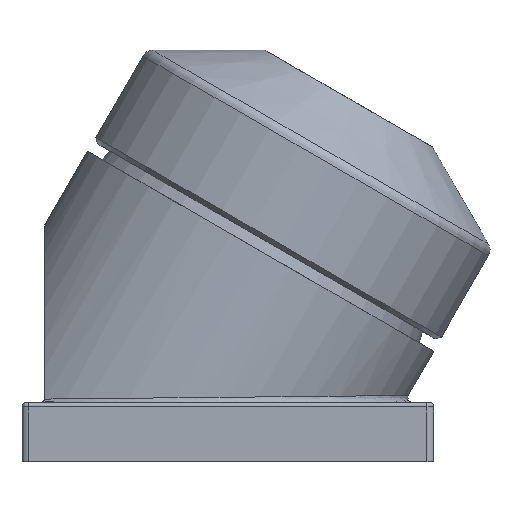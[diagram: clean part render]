
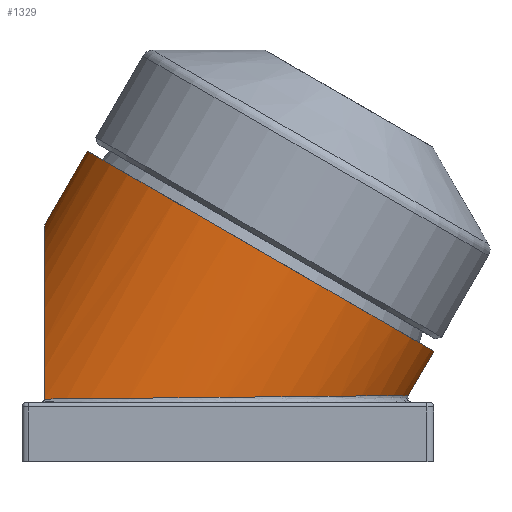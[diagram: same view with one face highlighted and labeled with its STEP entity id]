
A CAD part, left-side view. The second image highlights one B-rep face of the part: STEP entity #1329.
In plain terms, the highlighted cylindrical face has radius 87.5 mm (diameter 175 mm), a full revolution.
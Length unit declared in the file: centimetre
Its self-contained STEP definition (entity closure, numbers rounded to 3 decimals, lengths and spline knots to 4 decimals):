
#61=ELLIPSE('',#1459,10.1619,8.75);
#63=ELLIPSE('',#1464,17.5,8.75);
#74=B_SPLINE_CURVE_WITH_KNOTS('',3,(#2517,#2518,#2519,#2520,#2521,#2522),
 .UNSPECIFIED.,.F.,.F.,(4,2,4),(0.7222,0.7545,0.7786),
 .UNSPECIFIED.);
#75=B_SPLINE_CURVE_WITH_KNOTS('',3,(#2525,#2526,#2527,#2528,#2529,#2530),
 .UNSPECIFIED.,.F.,.F.,(4,2,4),(0.5728,0.5968,0.6291),
 .UNSPECIFIED.);
#76=B_SPLINE_CURVE_WITH_KNOTS('',3,(#2537,#2538,#2539,#2540,#2541,#2542,
#2543,#2544,#2545,#2546,#2547,#2548,#2549,#2550,#2551,#2552,#2553,#2554),
 .UNSPECIFIED.,.F.,.F.,(4,2,2,2,2,2,2,2,4),(0.6363,0.7954,
0.9545,1.1135,1.2726,1.4316,1.5907,
1.7498,1.9088),.UNSPECIFIED.);
#77=B_SPLINE_CURVE_WITH_KNOTS('',3,(#2555,#2556,#2557,#2558,#2559,#2560,
#2561,#2562,#2563,#2564,#2565,#2566,#2567,#2568,#2569,#2570,#2571,#2572,
#2573),.UNSPECIFIED.,.F.,.F.,(4,2,2,2,3,2,2,2,4),(1.9088,2.0679,
2.227,2.3861,2.5451,2.7041,2.8632,
3.0223,3.1814),.UNSPECIFIED.);
#109=CYLINDRICAL_SURFACE('',#1462,8.75);
#162=FACE_BOUND('',#385,.T.);
#163=FACE_BOUND('',#386,.T.);
#261=FACE_OUTER_BOUND('',#384,.T.);
#384=EDGE_LOOP('',(#951));
#385=EDGE_LOOP('',(#952,#953,#954,#955));
#386=EDGE_LOOP('',(#956,#957));
#548=CIRCLE('',#1463,8.75);
#654=VERTEX_POINT('',#2484);
#655=VERTEX_POINT('',#2485);
#658=VERTEX_POINT('',#2516);
#659=VERTEX_POINT('',#2523);
#660=VERTEX_POINT('',#2532);
#661=VERTEX_POINT('',#2535);
#662=VERTEX_POINT('',#2536);
#775=EDGE_CURVE('',#654,#655,#61,.T.);
#780=EDGE_CURVE('',#655,#658,#74,.T.);
#782=EDGE_CURVE('',#659,#654,#75,.T.);
#783=EDGE_CURVE('',#660,#660,#548,.T.);
#784=EDGE_CURVE('',#659,#658,#63,.T.);
#785=EDGE_CURVE('',#661,#662,#76,.T.);
#786=EDGE_CURVE('',#662,#661,#77,.T.);
#951=ORIENTED_EDGE('',*,*,#783,.T.);
#952=ORIENTED_EDGE('',*,*,#775,.F.);
#953=ORIENTED_EDGE('',*,*,#782,.F.);
#954=ORIENTED_EDGE('',*,*,#784,.T.);
#955=ORIENTED_EDGE('',*,*,#780,.F.);
#956=ORIENTED_EDGE('',*,*,#785,.T.);
#957=ORIENTED_EDGE('',*,*,#786,.T.);
#1329=ADVANCED_FACE('',(#261,#162,#163),#109,.T.);
#1459=AXIS2_PLACEMENT_3D('',#2486,#1712,#1713);
#1462=AXIS2_PLACEMENT_3D('',#2531,#1720,#1721);
#1463=AXIS2_PLACEMENT_3D('',#2533,#1722,#1723);
#1464=AXIS2_PLACEMENT_3D('',#2534,#1724,#1725);
#1712=DIRECTION('center_axis',(0.,-0.01,
-1.));
#1713=DIRECTION('ref_axis',(0.,-1.,0.01));
#1720=DIRECTION('center_axis',(0.,0.5,-0.866));
#1721=DIRECTION('ref_axis',(-1.,0.,0.));
#1722=DIRECTION('center_axis',(0.,0.5,-0.866));
#1723=DIRECTION('ref_axis',(1.,0.,0.));
#1724=DIRECTION('center_axis',(0.,-1.,0.));
#1725=DIRECTION('ref_axis',(0.,0.,1.));
#2484=CARTESIAN_POINT('',(7.2225,10.3156,2.7436));
#2485=CARTESIAN_POINT('',(-7.2225,10.3156,2.7436));
#2486=CARTESIAN_POINT('Origin',(0.,4.5795,2.8));
#2516=CARTESIAN_POINT('',(-7.208,10.3075,2.8));
#2517=CARTESIAN_POINT('Ctrl Pts',(-7.2225,10.3156,2.7436));
#2518=CARTESIAN_POINT('Ctrl Pts',(-7.2208,10.3125,2.7542));
#2519=CARTESIAN_POINT('Ctrl Pts',(-7.2184,10.3103,2.765));
#2520=CARTESIAN_POINT('Ctrl Pts',(-7.2132,10.308,2.784));
#2521=CARTESIAN_POINT('Ctrl Pts',(-7.2107,10.3075,2.792));
#2522=CARTESIAN_POINT('Ctrl Pts',(-7.208,10.3075,2.8));
#2523=CARTESIAN_POINT('',(7.208,10.3075,2.8));
#2525=CARTESIAN_POINT('Ctrl Pts',(7.208,10.3075,2.8));
#2526=CARTESIAN_POINT('Ctrl Pts',(7.2107,10.3075,2.792));
#2527=CARTESIAN_POINT('Ctrl Pts',(7.2132,10.308,2.784));
#2528=CARTESIAN_POINT('Ctrl Pts',(7.2184,10.3103,2.765));
#2529=CARTESIAN_POINT('Ctrl Pts',(7.2208,10.3125,2.7542));
#2530=CARTESIAN_POINT('Ctrl Pts',(7.2225,10.3156,2.7436));
#2531=CARTESIAN_POINT('Origin',(0.,3.5383,4.6036));
#2532=CARTESIAN_POINT('',(-8.75,0.88,9.2078));
#2533=CARTESIAN_POINT('Origin',(0.,0.88,
9.2078));
#2534=CARTESIAN_POINT('Origin',(0.,10.3075,-7.1211));
#2535=CARTESIAN_POINT('',(8.75,1.7112,7.7681));
#2536=CARTESIAN_POINT('',(8.75,1.2888,8.4997));
#2537=CARTESIAN_POINT('Ctrl Pts',(8.75,1.7112,7.7681));
#2538=CARTESIAN_POINT('Ctrl Pts',(8.75,1.6653,7.7416));
#2539=CARTESIAN_POINT('Ctrl Pts',(8.7495,1.611,7.7225));
#2540=CARTESIAN_POINT('Ctrl Pts',(8.7475,1.4993,7.7079));
#2541=CARTESIAN_POINT('Ctrl Pts',(8.7462,1.4419,7.7123));
#2542=CARTESIAN_POINT('Ctrl Pts',(8.7436,1.3395,7.7398));
#2543=CARTESIAN_POINT('Ctrl Pts',(8.7423,1.2877,7.7647));
#2544=CARTESIAN_POINT('Ctrl Pts',(8.7403,1.1984,7.8333));
#2545=CARTESIAN_POINT('Ctrl Pts',(8.7398,1.161,7.877));
#2546=CARTESIAN_POINT('Ctrl Pts',(8.7398,1.108,7.9688));
#2547=CARTESIAN_POINT('Ctrl Pts',(8.7403,1.0889,8.0231));
#2548=CARTESIAN_POINT('Ctrl Pts',(8.7423,1.0741,8.1347));
#2549=CARTESIAN_POINT('Ctrl Pts',(8.7436,1.0785,8.1921));
#2550=CARTESIAN_POINT('Ctrl Pts',(8.7462,1.1059,8.2945));
#2551=CARTESIAN_POINT('Ctrl Pts',(8.7475,1.1307,8.3464));
#2552=CARTESIAN_POINT('Ctrl Pts',(8.7495,1.1992,8.4357));
#2553=CARTESIAN_POINT('Ctrl Pts',(8.75,1.2429,8.4732));
#2554=CARTESIAN_POINT('Ctrl Pts',(8.75,1.2888,8.4997));
#2555=CARTESIAN_POINT('Ctrl Pts',(8.75,1.2888,8.4997));
#2556=CARTESIAN_POINT('Ctrl Pts',(8.75,1.3347,8.5262));
#2557=CARTESIAN_POINT('Ctrl Pts',(8.7495,1.389,8.5453));
#2558=CARTESIAN_POINT('Ctrl Pts',(8.7475,1.5007,8.56));
#2559=CARTESIAN_POINT('Ctrl Pts',(8.7462,1.558,8.5555));
#2560=CARTESIAN_POINT('Ctrl Pts',(8.7436,1.6604,8.528));
#2561=CARTESIAN_POINT('Ctrl Pts',(8.7423,1.7123,8.5031));
#2562=CARTESIAN_POINT('Ctrl Pts',(8.7403,1.8016,8.4346));
#2563=CARTESIAN_POINT('Ctrl Pts',(8.7398,1.839,8.3909));
#2564=CARTESIAN_POINT('Ctrl Pts',(8.7398,1.8655,8.345));
#2565=CARTESIAN_POINT('Ctrl Pts',(8.7398,1.892,8.299));
#2566=CARTESIAN_POINT('Ctrl Pts',(8.7403,1.9111,8.2448));
#2567=CARTESIAN_POINT('Ctrl Pts',(8.7423,1.9259,8.1332));
#2568=CARTESIAN_POINT('Ctrl Pts',(8.7436,1.9215,8.0758));
#2569=CARTESIAN_POINT('Ctrl Pts',(8.7462,1.8941,7.9734));
#2570=CARTESIAN_POINT('Ctrl Pts',(8.7475,1.8693,7.9215));
#2571=CARTESIAN_POINT('Ctrl Pts',(8.7495,1.8008,7.8321));
#2572=CARTESIAN_POINT('Ctrl Pts',(8.75,1.7571,7.7947));
#2573=CARTESIAN_POINT('Ctrl Pts',(8.75,1.7112,7.7681));
